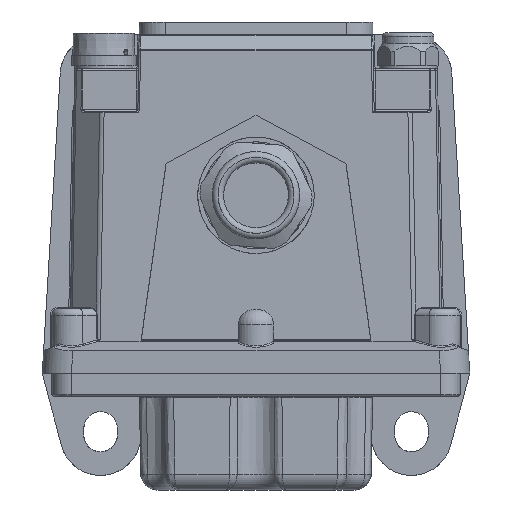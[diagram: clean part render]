
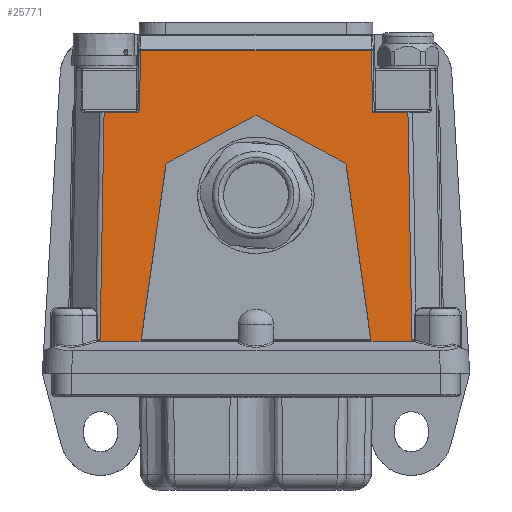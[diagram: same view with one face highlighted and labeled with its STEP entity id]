
A CAD part, front view. The second image highlights one B-rep face of the part: STEP entity #25771.
In plain terms, the highlighted planar face has unit normal (0, -1, 0.018).
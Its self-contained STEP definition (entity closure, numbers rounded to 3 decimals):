
#463=LINE('',#34877,#1552);
#464=LINE('',#34901,#1553);
#465=LINE('',#34906,#1554);
#635=LINE('',#36591,#1724);
#650=LINE('',#36686,#1739);
#667=LINE('',#36902,#1756);
#679=LINE('',#36996,#1768);
#886=LINE('',#38335,#1975);
#887=LINE('',#38341,#1976);
#888=LINE('',#38342,#1977);
#889=LINE('',#38344,#1978);
#890=LINE('',#38346,#1979);
#891=LINE('',#38348,#1980);
#1552=VECTOR('',#29336,1000.);
#1553=VECTOR('',#29347,1000.);
#1554=VECTOR('',#29352,1000.);
#1724=VECTOR('',#29968,1000.);
#1739=VECTOR('',#30033,1000.);
#1756=VECTOR('',#30100,1000.);
#1768=VECTOR('',#30156,1000.);
#1975=VECTOR('',#30903,1000.);
#1976=VECTOR('',#30904,1000.);
#1977=VECTOR('',#30905,1000.);
#1978=VECTOR('',#30906,1000.);
#1979=VECTOR('',#30907,1000.);
#1980=VECTOR('',#30908,1000.);
#2580=B_SPLINE_CURVE_WITH_KNOTS('',3,(#34870,#34871,#34872,#34873),
 .UNSPECIFIED.,.F.,.F.,(4,4),(0.,0.001),
 .UNSPECIFIED.);
#2581=B_SPLINE_CURVE_WITH_KNOTS('',3,(#34920,#34921,#34922,#34923),
 .UNSPECIFIED.,.F.,.F.,(4,4),(0.,0.001),
 .UNSPECIFIED.);
#2758=B_SPLINE_CURVE_WITH_KNOTS('',3,(#38231,#38232,#38233,#38234),
 .UNSPECIFIED.,.F.,.F.,(4,4),(0.,0.),.UNSPECIFIED.);
#2767=B_SPLINE_CURVE_WITH_KNOTS('',3,(#38337,#38338,#38339,#38340),
 .UNSPECIFIED.,.F.,.F.,(4,4),(0.,0.),.UNSPECIFIED.);
#3063=ELLIPSE('',#26796,1.,1.);
#5980=ORIENTED_EDGE('',*,*,#10382,.T.);
#5981=ORIENTED_EDGE('',*,*,#10383,.T.);
#5982=ORIENTED_EDGE('',*,*,#9505,.F.);
#5983=ORIENTED_EDGE('',*,*,#9954,.T.);
#5984=ORIENTED_EDGE('',*,*,#9503,.T.);
#5985=ORIENTED_EDGE('',*,*,#9982,.T.);
#5986=ORIENTED_EDGE('',*,*,#9501,.T.);
#5987=ORIENTED_EDGE('',*,*,#9876,.T.);
#5988=ORIENTED_EDGE('',*,*,#9498,.T.);
#5989=ORIENTED_EDGE('',*,*,#9496,.T.);
#5990=ORIENTED_EDGE('',*,*,#9907,.T.);
#5991=ORIENTED_EDGE('',*,*,#9494,.T.);
#5992=ORIENTED_EDGE('',*,*,#10363,.T.);
#5993=ORIENTED_EDGE('',*,*,#10384,.T.);
#5994=ORIENTED_EDGE('',*,*,#10385,.T.);
#5995=ORIENTED_EDGE('',*,*,#10386,.T.);
#5996=ORIENTED_EDGE('',*,*,#10387,.T.);
#5997=ORIENTED_EDGE('',*,*,#10388,.T.);
#9494=EDGE_CURVE('',#12058,#12057,#2580,.F.);
#9496=EDGE_CURVE('',#12059,#11990,#463,.F.);
#9498=EDGE_CURVE('',#12060,#12059,#3063,.F.);
#9501=EDGE_CURVE('',#12025,#11976,#464,.F.);
#9503=EDGE_CURVE('',#12020,#12063,#465,.F.);
#9505=EDGE_CURVE('',#12064,#12065,#2581,.F.);
#9876=EDGE_CURVE('',#11976,#12060,#635,.F.);
#9907=EDGE_CURVE('',#11990,#12058,#650,.F.);
#9954=EDGE_CURVE('',#12064,#12020,#667,.F.);
#9982=EDGE_CURVE('',#12063,#12025,#679,.F.);
#10363=EDGE_CURVE('',#12057,#12555,#2758,.T.);
#10382=EDGE_CURVE('',#12569,#12570,#886,.T.);
#10383=EDGE_CURVE('',#12570,#12065,#2767,.T.);
#10384=EDGE_CURVE('',#12555,#12559,#887,.T.);
#10385=EDGE_CURVE('',#12559,#12571,#888,.T.);
#10386=EDGE_CURVE('',#12571,#12572,#889,.T.);
#10387=EDGE_CURVE('',#12572,#12573,#890,.T.);
#10388=EDGE_CURVE('',#12573,#12569,#891,.T.);
#11976=VERTEX_POINT('',#34515);
#11990=VERTEX_POINT('',#34562);
#12020=VERTEX_POINT('',#34730);
#12025=VERTEX_POINT('',#34741);
#12057=VERTEX_POINT('',#34869);
#12058=VERTEX_POINT('',#34874);
#12059=VERTEX_POINT('',#34878);
#12060=VERTEX_POINT('',#34896);
#12063=VERTEX_POINT('',#34905);
#12064=VERTEX_POINT('',#34924);
#12065=VERTEX_POINT('',#34925);
#12555=VERTEX_POINT('',#38230);
#12559=VERTEX_POINT('',#38245);
#12569=VERTEX_POINT('',#38331);
#12570=VERTEX_POINT('',#38336);
#12571=VERTEX_POINT('',#38343);
#12572=VERTEX_POINT('',#38345);
#12573=VERTEX_POINT('',#38347);
#14774=EDGE_LOOP('',(#5980,#5981,#5982,#5983,#5984,#5985,#5986,#5987,#5988,
#5989,#5990,#5991,#5992,#5993,#5994,#5995,#5996,#5997));
#16077=FACE_BOUND('',#14774,.T.);
#16946=PLANE('',#27366);
#25771=ADVANCED_FACE('',(#16077),#16946,.T.);
#26796=AXIS2_PLACEMENT_3D('',#34895,#29339,#29340);
#27366=AXIS2_PLACEMENT_3D('',#38334,#30901,#30902);
#29336=DIRECTION('',(1.,0.,0.));
#29339=DIRECTION('',(0.,-1.,0.017));
#29340=DIRECTION('',(0.,-0.017,-1.));
#29347=DIRECTION('',(1.,0.,0.));
#29352=DIRECTION('',(1.,0.,0.));
#29968=DIRECTION('',(0.017,0.017,1.));
#30033=DIRECTION('',(0.017,0.017,1.));
#30100=DIRECTION('',(0.017,-0.017,-1.));
#30156=DIRECTION('',(0.017,-0.017,-1.));
#30901=DIRECTION('',(0.,-1.,0.017));
#30902=DIRECTION('',(0.,-0.017,-1.));
#30903=DIRECTION('',(1.,0.,0.));
#30904=DIRECTION('',(1.,0.,0.));
#30905=DIRECTION('',(0.14,0.017,0.99));
#30906=DIRECTION('',(0.882,0.008,0.471));
#30907=DIRECTION('',(0.882,-0.008,-0.471));
#30908=DIRECTION('',(0.14,-0.017,-0.99));
#34515=CARTESIAN_POINT('',(-35.652,-67.082,99.796));
#34562=CARTESIAN_POINT('',(-46.906,-67.419,80.509));
#34730=CARTESIAN_POINT('',(46.906,-67.419,80.509));
#34741=CARTESIAN_POINT('',(35.652,-67.082,99.796));
#34869=CARTESIAN_POINT('',(-49.046,-68.649,10.02));
#34870=CARTESIAN_POINT('',(-49.046,-68.649,10.02));
#34871=CARTESIAN_POINT('',(-48.727,-68.648,10.066));
#34872=CARTESIAN_POINT('',(-48.418,-68.646,10.186));
#34873=CARTESIAN_POINT('',(-48.131,-68.644,10.33));
#34874=CARTESIAN_POINT('',(-48.131,-68.644,10.33));
#34877=CARTESIAN_POINT('',(-46.897,-67.419,80.509));
#34878=CARTESIAN_POINT('',(-36.971,-67.419,80.509));
#34895=CARTESIAN_POINT('',(-36.971,-67.401,81.509));
#34896=CARTESIAN_POINT('',(-35.972,-67.402,81.491));
#34901=CARTESIAN_POINT('',(-36.148,-67.082,99.796));
#34905=CARTESIAN_POINT('',(35.989,-67.419,80.509));
#34906=CARTESIAN_POINT('',(0.,-67.419,80.509));
#34920=CARTESIAN_POINT('',(48.883,-68.649,10.05));
#34921=CARTESIAN_POINT('',(48.623,-68.648,10.108));
#34922=CARTESIAN_POINT('',(48.369,-68.646,10.211));
#34923=CARTESIAN_POINT('',(48.131,-68.644,10.33));
#34924=CARTESIAN_POINT('',(48.131,-68.644,10.33));
#34925=CARTESIAN_POINT('',(48.883,-68.649,10.05));
#36591=CARTESIAN_POINT('',(-35.559,-66.989,105.12));
#36686=CARTESIAN_POINT('',(-48.137,-68.65,9.986));
#36902=CARTESIAN_POINT('',(47.962,-68.475,19.986));
#36996=CARTESIAN_POINT('',(35.559,-66.989,105.12));
#38230=CARTESIAN_POINT('',(-49.034,-68.65,10.));
#38231=CARTESIAN_POINT('',(-49.046,-68.649,10.02));
#38232=CARTESIAN_POINT('',(-49.042,-68.649,10.014));
#38233=CARTESIAN_POINT('',(-49.038,-68.649,10.007));
#38234=CARTESIAN_POINT('',(-49.034,-68.65,10.));
#38245=CARTESIAN_POINT('',(-35.5,-68.65,10.));
#38331=CARTESIAN_POINT('',(35.5,-68.65,10.));
#38334=CARTESIAN_POINT('',(0.,-67.,104.5));
#38335=CARTESIAN_POINT('',(0.,-68.65,10.));
#38336=CARTESIAN_POINT('',(48.661,-68.65,10.));
#38337=CARTESIAN_POINT('',(48.661,-68.65,10.));
#38338=CARTESIAN_POINT('',(48.738,-68.65,10.));
#38339=CARTESIAN_POINT('',(48.814,-68.649,10.016));
#38340=CARTESIAN_POINT('',(48.883,-68.649,10.05));
#38341=CARTESIAN_POINT('',(0.,-68.65,10.));
#38342=CARTESIAN_POINT('',(-28.275,-67.755,61.236));
#38343=CARTESIAN_POINT('',(-27.764,-67.692,64.865));
#38344=CARTESIAN_POINT('',(-9.326,-67.52,74.71));
#38345=CARTESIAN_POINT('',(0.,-67.433,79.69));
#38346=CARTESIAN_POINT('',(9.326,-67.52,74.71));
#38347=CARTESIAN_POINT('',(27.764,-67.692,64.865));
#38348=CARTESIAN_POINT('',(28.275,-67.755,61.236));
